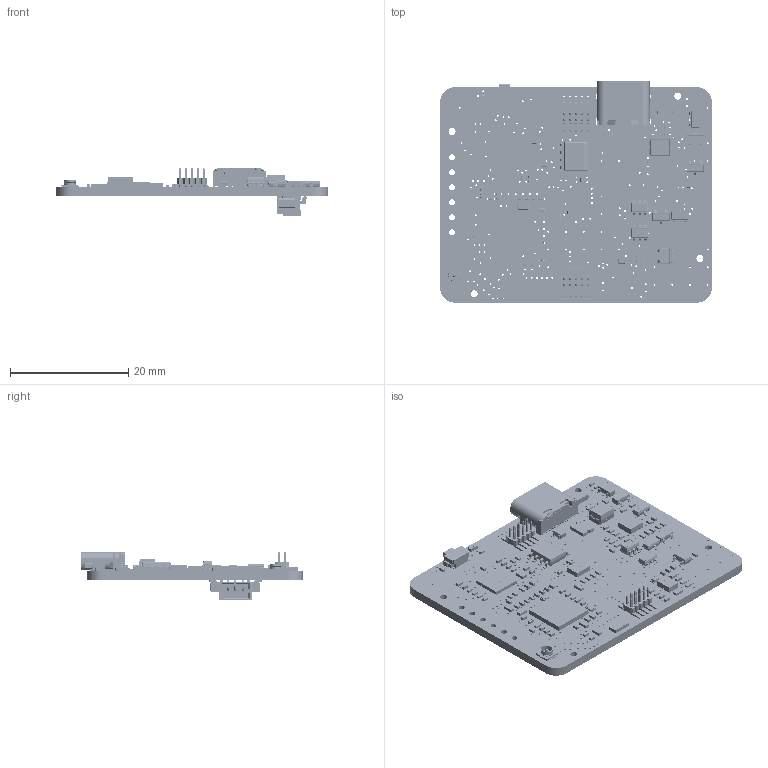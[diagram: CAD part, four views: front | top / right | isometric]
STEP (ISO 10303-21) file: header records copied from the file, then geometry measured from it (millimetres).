
FILE_DESCRIPTION(('FreeCAD Model'),'2;1');
FILE_NAME('Open CASCADE Shape Model','2026-11-25T18:36:20',('Author'),( ''),'Open CASCADE STEP processor 7.8','FreeCAD','Unknown');
FILE_SCHEMA(('AUTOMOTIVE_DESIGN { 1 0 10303 214 1 1 1 1 }'));
Length unit declared in the file: millimetre
Products named in the file (129): OpenEMG; PCB; C1; C10; C100; C101; C102; C103; C104; C105; C2; C3; C4; C44; C45; C46; C47; C48; C49; C5; C6; C7; C75; C76; C77; C78; C79; C8; C80; C81; C82; C83; C84; C85; C86; C87; C88; C89; C9; C90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
Assembly tree (128 placements, depth 2):
  OpenEMG
    PCB
    C1
    C10
    C100
    C101
    C102
    C103
    C104
    C105
    C2
    C3
    C4
    C44
    C45
    C46
    C47
    C48
    C49
    C5
    C6
    C7
    C75
    C76
    C77
    C78
    C79
    C8
    C80
    C81
    C82
    C83
    C84
    C85
    C86
    C87
    C88
    C89
    C9
    C90
    C91
    C92
    C93
    C94
    C95
    C96
    C97
    C98
    C99
    CN1
    CN2
    CN3
    D1
    F1
    L1
    L2
    L3
    L4
    L5
    L6
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Bounding box: 46 x 37.49 x 8.29 mm (x, y, z)
Volume: 3022.4 mm3; surface area: 6027.1 mm2
Topology: 489 solids, 489 shells, 44298 faces, 117793 edges, 76767 vertices
Faces by surface type: plane 25920, bspline 13770, cylinder 3725, sphere 629, torus 226, cone 22, revolution 6
Full cylindrical faces by diameter (mm): 0.305 x267, 0.7 x4, 1 x6, 1.2 x4
Entity records: 1513312 total; most frequent: CARTESIAN_POINT 511653, ORIENTED_EDGE 234606, DIRECTION 153170, EDGE_CURVE 117303, LINE 79684, VECTOR 79684, VERTEX_POINT 76767, FACE_BOUND 47850
